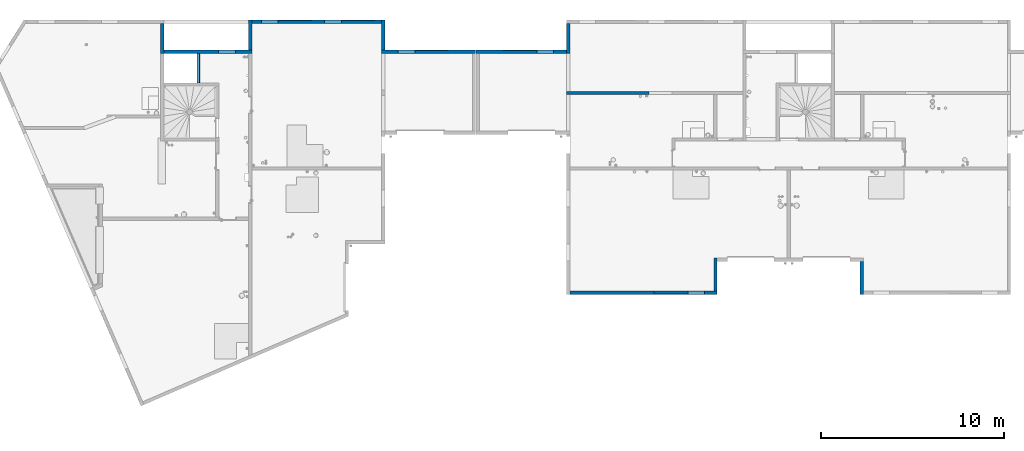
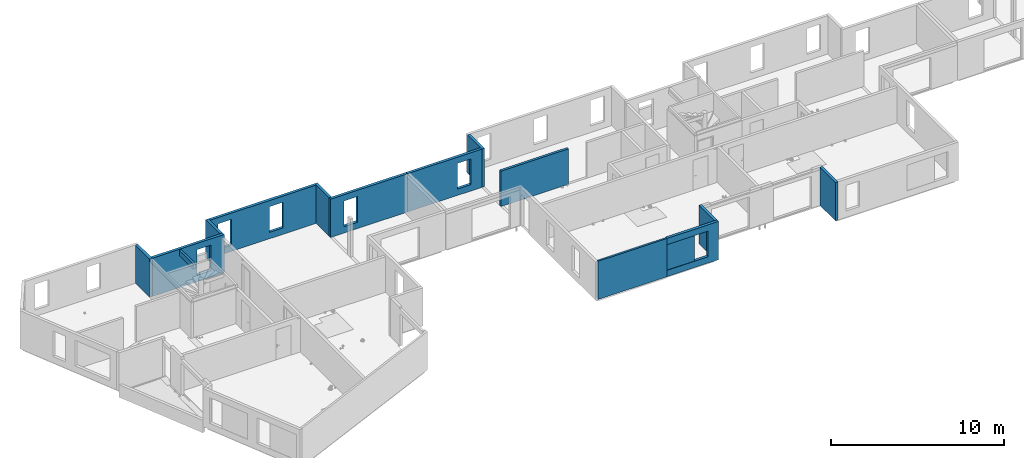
# One storey, part 6 of 30: 14 walls, 15 openings.
"""IFC2X3 building model written with IfcOpenShell, lengths in centimetres."""

import ifcopenshell
import ifcopenshell.guid

model = None  # the IFC model being written
_history = None  # IfcOwnerHistory: only IFC2X3 demands one
_inside = {}  # id of a spatial element -> (the spatial element, [elements in it])
_under = {}  # id of a project, library or spatial element -> (it, [spatial elements below it])
_declared = {}  # id of a project -> (the project, [libraries it declares])
_typed = {}  # id of a type object -> (the type object, [elements of that type])
_made_of = {}  # id of a material, layer set ... -> (it, [elements and type objects made of it])


def new_model(schema):
    """Start an empty IFC model of exactly this schema.

    Asked for "IFC4X3", IfcOpenShell would pick the latest addendum, in which some entities
    have other attributes; the version numbers below select the first issue.
    IFC2X3 requires an IfcOwnerHistory on every rooted entity: one is made here for all.
    """
    global model, _history
    if schema == "IFC4X3":
        model = ifcopenshell.file(schema_version=(4, 3, 0, 0))
    else:
        model = ifcopenshell.file(schema=schema)
    _inside.clear()
    _under.clear()
    _declared.clear()
    _typed.clear()
    _made_of.clear()
    _history = None
    if model.schema == "IFC2X3":
        org = make("IfcOrganization", Name="unknown")
        user = make(
            "IfcPersonAndOrganization",
            ThePerson=make("IfcPerson", FamilyName="unknown"),
            TheOrganization=org,
        )
        app = make(
            "IfcApplication",
            ApplicationDeveloper=org,
            Version="unknown",
            ApplicationFullName="unknown",
            ApplicationIdentifier="unknown",
        )
        _history = make(
            "IfcOwnerHistory",
            OwningUser=user,
            OwningApplication=app,
            ChangeAction="ADDED",
            CreationDate=0,
        )
    return model


def make(cls, **values):
    """One entity of the class cls with the attributes given. An attribute that is None is left unset."""
    return model.create_entity(
        cls, **{name: value for name, value in values.items() if value is not None}
    )


def entity(cls, *values):
    """Any entity or typed value of the class cls, its attributes in the order of the schema. None: left unset."""
    e = model.create_entity(cls)
    for i, value in enumerate(values):
        if value is not None:
            e[i] = value
    return e


def rooted(cls, **values):
    """An entity with a GlobalId (a new one), such as an element, a storey or a relation."""
    return make(cls, GlobalId=ifcopenshell.guid.new(), OwnerHistory=_history, **values)


def si_unit(unit_type, name, prefix=None):
    """IfcSIUnit, for example si_unit("LENGTHUNIT", "METRE", prefix="MILLI")."""
    return make("IfcSIUnit", UnitType=unit_type, Prefix=prefix, Name=name)


def converted_unit(unit_type, name, factor, base, dimensions=None, offset=None):
    """IfcConversionBasedUnit, such as the inch: factor (a typed value) times the base unit."""
    return make(
        "IfcConversionBasedUnit"
        if offset is None
        else "IfcConversionBasedUnitWithOffset",
        ConversionOffset=offset,
        Dimensions=None
        if dimensions is None
        else entity("IfcDimensionalExponents", *dimensions),
        UnitType=unit_type,
        Name=name,
        ConversionFactor=make(
            "IfcMeasureWithUnit", ValueComponent=factor, UnitComponent=base
        ),
    )


def derived_unit(unit_type, elements):
    """IfcDerivedUnit: a product of units, each with its exponent."""
    return make(
        "IfcDerivedUnit",
        Elements=[
            make("IfcDerivedUnitElement", Unit=unit, Exponent=power)
            for unit, power in elements
        ],
        UnitType=unit_type,
    )


def assignment(units):
    """IfcUnitAssignment: the units of a project."""
    return None if units is None else make("IfcUnitAssignment", Units=units)


def point(xyz):
    """IfcCartesianPoint."""
    return None if xyz is None else make("IfcCartesianPoint", Coordinates=xyz)


def direction(xyz):
    """IfcDirection."""
    return None if xyz is None else make("IfcDirection", DirectionRatios=xyz)


def frame(location, z_axis=None, x_axis=None):
    """IfcAxis2Placement3D, a coordinate frame: its origin and axes. An axis left out is left unset."""
    return make(
        "IfcAxis2Placement3D",
        Location=point(location),
        Axis=direction(z_axis),
        RefDirection=direction(x_axis),
    )


def frame_2d(location, x_axis=None):
    """IfcAxis2Placement2D, a coordinate frame in the plane: its origin and x axis."""
    return make(
        "IfcAxis2Placement2D", Location=point(location), RefDirection=direction(x_axis)
    )


def origin():
    """The frame at (0, 0, 0) with its axes left unset."""
    return frame((0.0, 0.0, 0.0))


def origin_2d_with_axis():
    """The frame at (0, 0) in the plane with the x axis (1, 0) written out."""
    return frame_2d((0.0, 0.0), x_axis=(1.0, 0.0))


def place(relative_to, where):
    """IfcLocalPlacement: puts the frame where relative to a parent placement (None: the world)."""
    return make(
        "IfcLocalPlacement", PlacementRelTo=relative_to, RelativePlacement=where
    )


def context(
    kind, dimensions, precision=None, world=None, true_north=None, identifier=None
):
    """IfcGeometricRepresentationContext, for example the 3D "Model" context."""
    return make(
        "IfcGeometricRepresentationContext",
        ContextIdentifier=identifier,
        ContextType=kind,
        CoordinateSpaceDimension=dimensions,
        Precision=precision,
        WorldCoordinateSystem=world,
        TrueNorth=true_north,
    )


def subcontext(parent, identifier, kind, view, scale=None):
    """IfcGeometricRepresentationSubContext, for example "Body" below "Model"."""
    return make(
        "IfcGeometricRepresentationSubContext",
        ContextIdentifier=identifier,
        ContextType=kind,
        ParentContext=parent,
        TargetScale=scale,
        TargetView=view,
    )


def project(units=None, contexts=None):
    """IfcProject with its units and contexts."""
    return rooted(
        "IfcProject",
        Name="project",
        RepresentationContexts=contexts,
        UnitsInContext=assignment(units),
    )


def spatial(cls, under=None, at=None, **own):
    """A site, building, storey or space (cls), placed at a placement, below another one or the project."""
    s = rooted(cls, ObjectPlacement=at, **own)
    if under is not None:
        _under.setdefault(under.id(), (under, []))[1].append(s)
    return s


def polyline(points):
    """IfcPolyline through the points."""
    return make("IfcPolyline", Points=[point(p) for p in points])


def profile(cls, at=None, kind="AREA", **sizes):
    """A parametric profile (cls). Its sizes go by their IFC names, for example OverallWidth=200.0."""
    return make(cls, ProfileType=kind, Position=at, **sizes)


def rectangle(**sizes):
    """IfcRectangleProfileDef."""
    return profile("IfcRectangleProfileDef", **sizes)


def extrude(swept, where, along, depth):
    """IfcExtrudedAreaSolid: the profile swept, set in the frame where, extruded along a direction by depth."""
    return make(
        "IfcExtrudedAreaSolid",
        SweptArea=swept,
        Position=where,
        ExtrudedDirection=direction(along),
        Depth=depth,
    )


def clip(a, b, op="DIFFERENCE"):
    """IfcBooleanClippingResult: the solid a cut by the half space b."""
    return make(
        "IfcBooleanClippingResult", Operator=op, FirstOperand=a, SecondOperand=b
    )


def bounded_halfspace(plane, agree, where, boundary):
    """IfcPolygonalBoundedHalfSpace: a half space limited to a polygon's prism."""
    return make(
        "IfcPolygonalBoundedHalfSpace",
        BaseSurface=make("IfcPlane", Position=plane),
        AgreementFlag=agree,
        Position=where,
        PolygonalBoundary=boundary,
    )


def shape(context_of_items, identifier, shape_type, items):
    """IfcShapeRepresentation: the items that make up one representation, for example the "Body"."""
    return make(
        "IfcShapeRepresentation",
        ContextOfItems=context_of_items,
        RepresentationIdentifier=identifier,
        RepresentationType=shape_type,
        Items=items,
    )


def material(Name=None, Category=None):
    """IfcMaterial."""
    return make("IfcMaterial", Name=Name, Category=Category)


def layer(
    of_material, thickness, ventilated=None, Name=None, Category=None, Priority=None
):
    """IfcMaterialLayer: one layer of a wall or slab, of a material (None: an air gap)."""
    return make(
        "IfcMaterialLayer",
        Material=of_material,
        LayerThickness=thickness,
        IsVentilated=ventilated,
        Name=Name,
        Category=Category,
        Priority=Priority,
    )


def layer_set(layers, Name=None):
    """IfcMaterialLayerSet."""
    return make("IfcMaterialLayerSet", MaterialLayers=layers, LayerSetName=Name)


def layer_usage(for_layer_set, set_direction, sense, offset, extent=None):
    """IfcMaterialLayerSetUsage: how a layer set lies in its element."""
    return make(
        "IfcMaterialLayerSetUsage",
        ForLayerSet=for_layer_set,
        LayerSetDirection=set_direction,
        DirectionSense=sense,
        OffsetFromReferenceLine=offset,
        ReferenceExtent=extent,
    )


def made_of(thing, what):
    """Note that an element or type object is made of a material, layer set ...; save() writes the relation."""
    if what is not None:
        _made_of.setdefault(what.id(), (what, []))[1].append(thing)
    return thing


def type_object(cls, material=None, **own):
    """A type object (cls), such as IfcWallType, which elements share."""
    return made_of(rooted(cls, **own), material)


def element(
    cls,
    number,
    at=None,
    inside=None,
    cuts=None,
    type_object=None,
    material=None,
    context=None,
    identifier="Body",
    shape_type=None,
    held_by="IfcProductDefinitionShape",
    body=None,
    shapes=None,
    **own,
):
    """One element of the class cls, such as IfcWall. Its Tag is "e" and its number.

    at: its placement. inside: the storey or other place that contains it. cuts: it is an
    opening in that element (IfcRelVoidsElement). A single representation is given by context,
    identifier, shape_type and body (its items); several are given by shapes. held_by: the class
    of the entity that holds the representations. save() writes the other relations.
    """
    e = rooted(cls, Tag="e%d" % number, ObjectPlacement=at, **own)
    if body is not None:
        shapes = [shape(context, identifier, shape_type, body)]
    if shapes is not None:
        e.Representation = make(held_by, Representations=shapes)
    if inside is not None:
        _inside.setdefault(inside.id(), (inside, []))[1].append(e)
    if cuts is not None:
        rooted(
            "IfcRelVoidsElement", RelatingBuildingElement=cuts, RelatedOpeningElement=e
        )
    if type_object is not None:
        _typed.setdefault(type_object.id(), (type_object, []))[1].append(e)
    return made_of(e, material)


def aggregate(whole, parts):
    """IfcRelAggregates: a whole, such as a stair, and the parts it consists of."""
    return rooted("IfcRelAggregates", RelatingObject=whole, RelatedObjects=parts)


def save(model, path):
    """Write the relations noted so far, then the file.

    IfcRelAggregates (storeys below a building ...), IfcRelContainedInSpatialStructure (elements
    in a storey), IfcRelDefinesByType, IfcRelAssociatesMaterial and IfcRelDeclares: one each for
    every whole, place, type object, material and project.
    """
    for whole, parts in _under.values():
        aggregate(whole, parts)
    for where, things in _inside.values():
        rooted(
            "IfcRelContainedInSpatialStructure",
            RelatedElements=things,
            RelatingStructure=where,
        )
    for kind, things in _typed.values():
        rooted("IfcRelDefinesByType", RelatedObjects=things, RelatingType=kind)
    for what, things in _made_of.values():
        rooted("IfcRelAssociatesMaterial", RelatedObjects=things, RelatingMaterial=what)
    for by, libraries in _declared.values():
        rooted("IfcRelDeclares", RelatingContext=by, RelatedDefinitions=libraries)
    model.write(path)


model = new_model("IFC2X3")

# Units and contexts
model_context = context("Model", 3, precision=0.001, world=origin(), true_north=direction((6.12303176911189e-17, 1.0)))
body_context = subcontext(model_context, "Body", "Model", "MODEL_VIEW")
ifc_project = project(units=[si_unit("LENGTHUNIT", "METRE", prefix="CENTI"), si_unit("AREAUNIT", "SQUARE_METRE"), si_unit("VOLUMEUNIT", "CUBIC_METRE"), converted_unit("PLANEANGLEUNIT", "DEGREE", entity("IfcRatioMeasure", 0.0174532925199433), si_unit("PLANEANGLEUNIT", "RADIAN"), dimensions=[0, 0, 0, 0, 0, 0, 0]), si_unit("MASSUNIT", "GRAM", prefix="KILO"), derived_unit("MASSDENSITYUNIT", [(si_unit("MASSUNIT", "GRAM", prefix="KILO"), 1), (si_unit("LENGTHUNIT", "METRE"), -3)]), si_unit("TIMEUNIT", "SECOND"), si_unit("FREQUENCYUNIT", "HERTZ"), si_unit("THERMODYNAMICTEMPERATUREUNIT", "DEGREE_CELSIUS"), derived_unit("THERMALTRANSMITTANCEUNIT", [(si_unit("MASSUNIT", "GRAM", prefix="KILO"), 1), (si_unit("THERMODYNAMICTEMPERATUREUNIT", "KELVIN"), -1), (si_unit("TIMEUNIT", "SECOND"), -3)]), derived_unit("VOLUMETRICFLOWRATEUNIT", [(si_unit("LENGTHUNIT", "METRE"), 3), (si_unit("TIMEUNIT", "SECOND"), -1)]), si_unit("ELECTRICCURRENTUNIT", "AMPERE"), si_unit("ELECTRICVOLTAGEUNIT", "VOLT"), si_unit("POWERUNIT", "WATT"), si_unit("FORCEUNIT", "NEWTON"), si_unit("ILLUMINANCEUNIT", "LUX"), si_unit("LUMINOUSFLUXUNIT", "LUMEN"), si_unit("LUMINOUSINTENSITYUNIT", "CANDELA"), derived_unit("USERDEFINED", [(si_unit("MASSUNIT", "GRAM", prefix="KILO"), -1), (si_unit("LENGTHUNIT", "METRE"), -2), (si_unit("TIMEUNIT", "SECOND"), 3), (si_unit("LUMINOUSFLUXUNIT", "LUMEN"), 1)]), derived_unit("LINEARVELOCITYUNIT", [(si_unit("LENGTHUNIT", "METRE"), 1), (si_unit("TIMEUNIT", "SECOND"), -1)]), si_unit("PRESSUREUNIT", "PASCAL"), derived_unit("USERDEFINED", [(si_unit("LENGTHUNIT", "METRE"), -2), (si_unit("MASSUNIT", "GRAM", prefix="KILO"), 1), (si_unit("TIMEUNIT", "SECOND"), -2)])], contexts=[model_context])

# Site, building, storey
site_placement = place(None, origin())
site = spatial("IfcSite", under=ifc_project, at=site_placement, Name="Default", CompositionType="ELEMENT")
building_placement = place(site_placement, origin())
building = spatial("IfcBuilding", under=site, at=building_placement, Name="CAGE 03", CompositionType="ELEMENT")
storey_placement = place(building_placement, frame((0.0, 0.0, 610.0)))
storey = spatial("IfcBuildingStorey", under=building, at=storey_placement, Name="R+2", CompositionType="ELEMENT", Elevation=610.0)

# Wall
ifc_material_1 = material(Name="Béton, C25/30")
ifc_layer_1 = layer(ifc_material_1, 18.0)
ifc_layer_set_1 = layer_set([ifc_layer_1], Name="Mur de base:Voile BA 18")
ifc_layer_usage_1 = layer_usage(ifc_layer_set_1, "AXIS2", "NEGATIVE", 9.0)
wall_type_1 = type_object("IfcWallType", Name="Mur de base:Voile BA 18", PredefinedType="STANDARD", material=ifc_layer_set_1)
wall_1_placement = place(storey_placement, frame((3663.36582014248, 5275.66066607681, 0.0), z_axis=(0.0, 0.0, 1.0), x_axis=(0.0, -1.0, 0.0)))
element("IfcWallStandardCase", 1, at=wall_1_placement, inside=storey, type_object=wall_type_1, material=ifc_layer_usage_1, Name="Mur de base:Voile BA 18", ObjectType="Mur de base:Voile BA 18", context=body_context, shape_type="SweptSolid", body=[
    extrude(rectangle(XDim=165.0, YDim=18.0000000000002, at=frame_2d((82.4999999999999, 7.54951656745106e-14), x_axis=(-1.0, 0.0))), origin(), (0.0, 0.0, 1.0), 270.0),
])

# Wall, openings
ifc_layer_usage_2 = layer_usage(ifc_layer_set_1, "AXIS2", "NEGATIVE", 9.0)
wall_2_placement = place(storey_placement, frame((3672.36582014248, 5119.66066607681, 0.0)))
wall_2 = element("IfcWallStandardCase", 2, at=wall_2_placement, inside=storey, type_object=wall_type_1, material=ifc_layer_usage_2, Name="Mur de base:Voile BA 18", ObjectType="Mur de base:Voile BA 18", context=body_context, shape_type="SweptSolid", body=[
    extrude(rectangle(XDim=479.999999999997, YDim=17.9999999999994, at=frame_2d((239.999999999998, 1.87405646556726e-13), x_axis=(-1.0, 0.0))), origin(), (0.0, 0.0, 1.0), 270.0),
])
opening_1_placement = place(wall_2_placement, origin())
element("IfcOpeningElement", 3, at=opening_1_placement, cuts=wall_2, Name="Mur de base:Voile BA 18", ObjectType="Opening", context=body_context, shape_type="SweptSolid", body=[
    extrude(rectangle(XDim=227.0, YDim=17.9999999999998, at=frame_2d((2.16715534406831e-13, 4.9737991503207e-14), x_axis=(0.0, 1.0))), frame((189.0, -169.0, 113.5), z_axis=(0.0, 1.0, 0.0), x_axis=(1.0, 0.0, 0.0)), (0.0, 0.0, 1.0), 160.0),
])
opening_2_placement = place(wall_2_placement, frame((-3672.36582014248, -5119.66066607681, 0.0)))
element("IfcOpeningElement", 4, at=opening_2_placement, cuts=wall_2, Name="Mur de base:Voile BA 18", ObjectType="Opening", context=body_context, shape_type="SweptSolid", body=[
    extrude(rectangle(XDim=181.0, YDim=95.0000000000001, at=frame_2d((0.0, -4.33431068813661e-13), x_axis=(1.0, 0.0))), frame((4016.86582014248, 4958.26066607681, 135.5), z_axis=(0.0, 1.0, 0.0), x_axis=(0.0, 0.0, 1.0)), (0.0, 0.0, 1.0), 304.8),
])

# Walls
ifc_layer_usage_3 = layer_usage(ifc_layer_set_1, "AXIS2", "POSITIVE", -9.0)
wall_3_placement = place(storey_placement, frame((4143.36582014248, 5293.66066607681, 0.0), z_axis=(0.0, 0.0, 1.0), x_axis=(0.0, -1.0, 0.0)))
element("IfcWallStandardCase", 5, at=wall_3_placement, inside=storey, type_object=wall_type_1, material=ifc_layer_usage_3, Name="Mur de base:Voile BA 18", ObjectType="Mur de base:Voile BA 18", context=body_context, shape_type="SweptSolid", body=[
    extrude(rectangle(XDim=165.000000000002, YDim=17.9999999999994, at=frame_2d((82.5000000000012, -9.76996261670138e-15), x_axis=(-1.0, 0.0))), origin(), (0.0, 0.0, 1.0), 270.0),
])
ifc_layer_usage_4 = layer_usage(ifc_layer_set_1, "AXIS2", "POSITIVE", -9.0)
wall_4_placement = place(storey_placement, frame((6682.36582014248, 3814.6606660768, 0.0), z_axis=(0.0, 0.0, 1.0), x_axis=(0.0, 1.0, 0.0)))
element("IfcWallStandardCase", 6, at=wall_4_placement, inside=storey, type_object=wall_type_1, material=ifc_layer_usage_4, Name="Mur de base:Voile BA 18", ObjectType="Mur de base:Voile BA 18", context=body_context, shape_type="SweptSolid", body=[
    extrude(rectangle(XDim=179.999999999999, YDim=17.9999999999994, at=frame_2d((89.9999999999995, -1.4299672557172e-13), x_axis=(-1.0, 0.0))), origin(), (0.0, 0.0, 1.0), 270.0),
])
ifc_layer_usage_5 = layer_usage(ifc_layer_set_1, "AXIS2", "POSITIVE", -9.0)
wall_5_placement = place(storey_placement, frame((7480.36582014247, 3976.6606660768, 0.0), z_axis=(0.0, 0.0, 1.0), x_axis=(0.0, -1.0, 0.0)))
element("IfcWallStandardCase", 7, at=wall_5_placement, inside=storey, type_object=wall_type_1, material=ifc_layer_usage_5, Name="Mur de base:Voile BA 18", ObjectType="Mur de base:Voile BA 18", context=body_context, shape_type="SweptSolid", body=[
    extrude(rectangle(XDim=179.999999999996, YDim=17.9999999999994, at=frame_2d((89.9999999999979, -7.19424519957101e-14), x_axis=(-1.0, 0.0))), origin(), (0.0, 0.0, 1.0), 270.0),
])
ifc_layer_usage_6 = layer_usage(ifc_layer_set_1, "AXIS2", "POSITIVE", -9.0)
wall_6_placement = place(storey_placement, frame((5879.36582014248, 5275.6606660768, 0.0), z_axis=(0.0, 0.0, 1.0), x_axis=(0.0, -1.0, 0.0)))
element("IfcWallStandardCase", 8, at=wall_6_placement, inside=storey, type_object=wall_type_1, material=ifc_layer_usage_6, Name="Mur de base:Voile BA 18", ObjectType="Mur de base:Voile BA 18", context=body_context, shape_type="SweptSolid", body=[
    extrude(rectangle(XDim=164.999999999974, YDim=17.9999999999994, at=frame_2d((82.4999999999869, -1.08357767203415e-13), x_axis=(-1.0, 0.0))), origin(), (0.0, 0.0, 1.0), 270.0),
])

# Wall, openings
ifc_layer_usage_7 = layer_usage(ifc_layer_set_1, "AXIS2", "POSITIVE", -9.0)
wall_7_placement = place(storey_placement, frame((5870.36582014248, 5119.66066607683, 0.0), z_axis=(0.0, 0.0, 1.0), x_axis=(-1.0, 0.0, 0.0)))
wall_7 = element("IfcWallStandardCase", 9, at=wall_7_placement, inside=storey, type_object=wall_type_1, material=ifc_layer_usage_7, Name="Mur de base:Voile BA 18", ObjectType="Mur de base:Voile BA 18", context=body_context, shape_type="SweptSolid", body=[
    extrude(rectangle(XDim=494.999999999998, YDim=17.9999999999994, at=frame_2d((247.499999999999, -7.01660951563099e-14), x_axis=(-1.0, 0.0))), origin(), (0.0, 0.0, 1.0), 270.0),
])
opening_3_placement = place(wall_7_placement, origin())
element("IfcOpeningElement", 10, at=opening_3_placement, cuts=wall_7, Name="Mur de base:Voile BA 18", ObjectType="Recess", context=body_context, shape_type="SweptSolid", body=[
    extrude(rectangle(XDim=181.0, YDim=184.0, at=frame_2d((0.0, 5.6843418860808e-14), x_axis=(0.0, 1.0))), frame((255.0, -9.0, 135.500000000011), z_axis=(0.0, 1.0, 0.0), x_axis=(1.0, 0.0, 0.0)), (0.0, 0.0, 1.0), 1.99999999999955),
])
opening_4_placement = place(wall_7_placement, frame((5870.36582014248, 5119.66066607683, 0.0), z_axis=(0.0, 0.0, 1.0), x_axis=(-1.0, 0.0, 0.0)))
element("IfcOpeningElement", 11, at=opening_4_placement, cuts=wall_7, Name="Mur de base:Voile BA 18", ObjectType="Opening", context=body_context, shape_type="SweptSolid", body=[
    extrude(rectangle(XDim=181.0, YDim=91.0000000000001, at=frame_2d((0.0, 0.0), x_axis=(0.0, 1.0))), frame((5752.86582014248, 5263.06066607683, 135.5), z_axis=(0.0, -1.0, 0.0), x_axis=(1.0, 0.0, 0.0)), (0.0, 0.0, 1.0), 304.8),
])

# Wall
ifc_layer_usage_8 = layer_usage(ifc_layer_set_1, "AXIS2", "POSITIVE", -9.0)
wall_8_placement = place(storey_placement, frame((4869.36582014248, 5128.66066607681, 0.0), z_axis=(0.0, 0.0, 1.0), x_axis=(0.0, 1.0, 0.0)))
element("IfcWallStandardCase", 12, at=wall_8_placement, inside=storey, type_object=wall_type_1, material=ifc_layer_usage_8, Name="Mur de base:Voile BA 18", ObjectType="Mur de base:Voile BA 18", context=body_context, shape_type="SweptSolid", body=[
    extrude(rectangle(XDim=165.0, YDim=17.9999999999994, at=frame_2d((82.4999999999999, -1.07469588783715e-13), x_axis=(-1.0, 0.0))), origin(), (0.0, 0.0, 1.0), 270.0),
])

# Wall, openings
ifc_layer_usage_9 = layer_usage(ifc_layer_set_1, "AXIS2", "POSITIVE", -9.0)
wall_9_placement = place(storey_placement, frame((4860.36582014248, 5284.66066607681, 0.0), z_axis=(0.0, 0.0, 1.0), x_axis=(-1.0, 0.0, 0.0)))
wall_9 = element("IfcWallStandardCase", 13, at=wall_9_placement, inside=storey, type_object=wall_type_1, material=ifc_layer_usage_9, Name="Mur de base:Voile BA 18", ObjectType="Mur de base:Voile BA 18", context=body_context, shape_type="SweptSolid", body=[
    extrude(rectangle(XDim=708.000000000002, YDim=17.9999999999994, at=frame_2d((354.000000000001, -2.43360886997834e-13), x_axis=(-1.0, 0.0))), origin(), (0.0, 0.0, 1.0), 270.0),
])
opening_5_placement = place(wall_9_placement, origin())
element("IfcOpeningElement", 14, at=opening_5_placement, cuts=wall_9, Name="Mur de base:Voile BA 18", ObjectType="Recess", context=body_context, shape_type="SweptSolid", body=[
    extrude(rectangle(XDim=181.0, YDim=184.0, at=frame_2d((0.0, -5.6843418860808e-14), x_axis=(0.0, 1.0))), frame((473.0, -9.0, 135.5), z_axis=(0.0, 1.0, 0.0), x_axis=(1.0, 0.0, 0.0)), (0.0, 0.0, 1.0), 1.99999999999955),
])
opening_6_placement = place(wall_9_placement, origin())
element("IfcOpeningElement", 15, at=opening_6_placement, cuts=wall_9, Name="Mur de base:Voile BA 18", ObjectType="Recess", context=body_context, shape_type="SweptSolid", body=[
    extrude(rectangle(XDim=181.0, YDim=184.0, at=frame_2d((0.0, 5.6843418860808e-14), x_axis=(0.0, 1.0))), frame((128.0, -9.0, 135.499999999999), z_axis=(0.0, 1.0, 0.0), x_axis=(1.0, 0.0, 0.0)), (0.0, 0.0, 1.0), 1.99999999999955),
])
opening_7_placement = place(wall_9_placement, frame((4860.36582014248, 5284.66066607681, 0.0), z_axis=(0.0, 0.0, 1.0), x_axis=(-1.0, 0.0, 0.0)))
element("IfcOpeningElement", 16, at=opening_7_placement, cuts=wall_9, Name="Mur de base:Voile BA 18", ObjectType="Opening", context=body_context, shape_type="SweptSolid", body=[
    extrude(rectangle(XDim=181.0, YDim=91.0000000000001, at=frame_2d((0.0, 0.0), x_axis=(0.0, 1.0))), frame((4249.86582014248, 5428.06066607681, 135.5), z_axis=(0.0, -1.0, 0.0), x_axis=(1.0, 0.0, 0.0)), (0.0, 0.0, 1.0), 304.8),
])
opening_8_placement = place(wall_9_placement, frame((4860.36582014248, 5284.66066607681, 0.0), z_axis=(0.0, 0.0, 1.0), x_axis=(-1.0, 0.0, 0.0)))
element("IfcOpeningElement", 17, at=opening_8_placement, cuts=wall_9, Name="Mur de base:Voile BA 18", ObjectType="Opening", context=body_context, shape_type="SweptSolid", body=[
    extrude(rectangle(XDim=181.0, YDim=91.0000000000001, at=frame_2d((0.0, 0.0), x_axis=(0.0, 1.0))), frame((4594.86582014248, 5428.06066607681, 135.5), z_axis=(0.0, -1.0, 0.0), x_axis=(1.0, 0.0, 0.0)), (0.0, 0.0, 1.0), 304.8),
])

# Wall, opening
ifc_layer_usage_10 = layer_usage(ifc_layer_set_1, "AXIS2", "POSITIVE", -9.0)
wall_10_placement = place(storey_placement, frame((3861.36582014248, 5110.66066607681, 227.0), z_axis=(0.0, 0.0, 1.0), x_axis=(0.0, -1.0, 0.0)))
wall_10 = element("IfcWallStandardCase", 18, at=wall_10_placement, inside=storey, type_object=wall_type_1, material=ifc_layer_usage_10, Name="Mur de base:Voile BA 18", ObjectType="Mur de base:Voile BA 18", context=body_context, shape_type="Clipping", body=[
    clip(clip(extrude(rectangle(XDim=159.999999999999, YDim=18.0000000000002, at=frame_2d((79.9999999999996, -8.08242361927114e-14), x_axis=(-1.0, 0.0))), origin(), (0.0, 0.0, 1.0), 36.0), bounded_halfspace(frame((0.0, 6.0, 23.0), z_axis=(0.0, 0.0, -1.0), x_axis=(1.0, 0.0, 0.0)), True, frame((0.0, 6.0, 23.0), z_axis=(0.0, 0.0, -1.0), x_axis=(1.0, 0.0, 0.0)), polyline([(0.0, 0.0), (0.0, -3.0), (160.0, -3.0), (160.0, 0.0), (0.0, 0.0)]))), bounded_halfspace(frame((160.0, 6.0, 23.0), z_axis=(0.0, -1.0, 0.0), x_axis=(0.0, 0.0, 1.0)), True, frame((160.0, 6.0, 23.0), z_axis=(0.0, -1.0, 0.0), x_axis=(0.0, 0.0, 1.0)), polyline([(0.0, 0.0), (13.0, 0.0), (13.0, 160.0), (0.0, 160.0), (0.0, 0.0)]))),
])
opening_9_placement = place(wall_10_placement, frame((5110.66066607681, -3861.36582014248, -227.0), z_axis=(0.0, 0.0, 1.0), x_axis=(0.0, 1.0, 0.0)))
element("IfcOpeningElement", 19, at=opening_9_placement, cuts=wall_10, Name="Mur de base:Voile BA 18", ObjectType="Opening", context=body_context, shape_type="SweptSolid", body=[
    extrude(rectangle(XDim=227.0, YDim=160.0, at=frame_2d((0.0, 4.9737991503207e-14), x_axis=(0.0, 1.0))), frame((3717.96582014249, 5030.66066607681, 113.5), z_axis=(1.0, 0.0, 0.0), x_axis=(0.0, 1.0, 0.0)), (0.0, 0.0, 1.0), 304.8),
])

# Wall, openings
ifc_layer_usage_11 = layer_usage(ifc_layer_set_1, "AXIS2", "POSITIVE", -9.0)
wall_11_placement = place(storey_placement, frame((5373.36582014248, 5119.66066607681, 0.0), z_axis=(0.0, 0.0, 1.0), x_axis=(-1.0, 0.0, 0.0)))
wall_11 = element("IfcWallStandardCase", 20, at=wall_11_placement, inside=storey, type_object=wall_type_1, material=ifc_layer_usage_11, Name="Mur de base:Voile BA 18", ObjectType="Mur de base:Voile BA 18", context=body_context, shape_type="SweptSolid", body=[
    extrude(rectangle(XDim=512.999999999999, YDim=17.9999999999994, at=frame_2d((256.5, 0.0), x_axis=(-1.0, 0.0))), origin(), (0.0, 0.0, 1.0), 270.0),
])
opening_10_placement = place(wall_11_placement, origin())
element("IfcOpeningElement", 21, at=opening_10_placement, cuts=wall_11, Name="Mur de base:Voile BA 18", ObjectType="Recess", context=body_context, shape_type="SweptSolid", body=[
    extrude(rectangle(XDim=181.0, YDim=184.0, at=frame_2d((0.0, 5.6843418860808e-14), x_axis=(0.0, 1.0))), frame((240.0, -9.0, 135.500000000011), z_axis=(0.0, 1.0, 0.0), x_axis=(1.0, 0.0, 0.0)), (0.0, 0.0, 1.0), 1.99999999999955),
])
opening_11_placement = place(wall_11_placement, frame((5373.36582014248, 5119.66066607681, 0.0), z_axis=(0.0, 0.0, 1.0), x_axis=(-1.0, 0.0, 0.0)))
element("IfcOpeningElement", 22, at=opening_11_placement, cuts=wall_11, Name="Mur de base:Voile BA 18", ObjectType="Opening", context=body_context, shape_type="SweptSolid", body=[
    extrude(rectangle(XDim=181.0, YDim=91.0000000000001, at=frame_2d((0.0, 0.0), x_axis=(0.0, 1.0))), frame((4995.86582014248, 5263.06066607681, 135.5), z_axis=(0.0, -1.0, 0.0), x_axis=(1.0, 0.0, 0.0)), (0.0, 0.0, 1.0), 304.8),
])

ifc_layer_usage_12 = layer_usage(ifc_layer_set_1, "AXIS2", "POSITIVE", -9.0)
wall_12_placement = place(storey_placement, frame((6347.36582014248, 3805.6606660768, 0.0)))
wall_12 = element("IfcWallStandardCase", 23, at=wall_12_placement, inside=storey, type_object=wall_type_1, material=ifc_layer_usage_12, Name="Mur de base:Voile BA 18", ObjectType="Mur de base:Voile BA 18", context=body_context, shape_type="SweptSolid", body=[
    extrude(rectangle(XDim=344.0, YDim=18.0000000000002, at=frame_2d((172.0, -1.04805053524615e-13), x_axis=(-1.0, 0.0))), origin(), (0.0, 0.0, 1.0), 270.0),
])
opening_12_placement = place(wall_12_placement, origin())
element("IfcOpeningElement", 24, at=opening_12_placement, cuts=wall_12, Name="Mur de base:Voile BA 18", ObjectType="Recess", context=body_context, shape_type="SweptSolid", body=[
    extrude(rectangle(XDim=181.0, YDim=184.0, at=origin_2d_with_axis()), frame((92.0, -9.0, 135.5), z_axis=(0.0, 1.0, 0.0), x_axis=(0.0, 0.0, -1.0)), (0.0, 0.0, 1.0), 1.99999999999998),
])
opening_13_placement = place(wall_12_placement, origin())
element("IfcOpeningElement", 25, at=opening_13_placement, cuts=wall_12, Name="Mur de base:Voile BA 18", ObjectType="Recess", context=body_context, shape_type="SweptSolid", body=[
    extrude(rectangle(XDim=181.0, YDim=184.0, at=origin_2d_with_axis()), frame((1693.0, -9.0, 135.5), z_axis=(0.0, 1.0, 0.0), x_axis=(0.0, 0.0, -1.0)), (0.0, 0.0, 1.0), 1.99999999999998),
])
opening_14_placement = place(wall_12_placement, frame((-6347.36582014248, -3805.6606660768, 0.0)))
element("IfcOpeningElement", 26, at=opening_14_placement, cuts=wall_12, Name="Mur de base:Voile BA 18", ObjectType="Opening", context=body_context, shape_type="SweptSolid", body=[
    extrude(rectangle(XDim=181.0, YDim=91.0000000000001, at=frame_2d((0.0, 0.0), x_axis=(0.0, 1.0))), frame((6576.86582014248, 3644.2606660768, 135.5), z_axis=(0.0, 1.0, 0.0), x_axis=(-1.0, 0.0, 0.0)), (0.0, 0.0, 1.0), 304.8),
])

# Wall, opening
ifc_material_2 = material(Name="Béton, panneaux préfa 30/37")
ifc_layer_2 = layer(ifc_material_2, 5.5)
ifc_layer_3 = layer(ifc_material_1, 7.0)
ifc_layer_4 = layer(ifc_material_2, 5.5)
ifc_layer_set_2 = layer_set([ifc_layer_2, ifc_layer_3, ifc_layer_4], Name="Mur de base:premur 18")
ifc_layer_usage_13 = layer_usage(ifc_layer_set_2, "AXIS2", "POSITIVE", -9.0)
wall_type_2 = type_object("IfcWallType", Name="Mur de base:premur 18", PredefinedType="NOTDEFINED")
wall_13_placement = place(storey_placement, frame((5888.36582014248, 3805.66066607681, 0.0)))
wall_13 = element("IfcWallStandardCase", 27, at=wall_13_placement, inside=storey, type_object=wall_type_2, material=ifc_layer_usage_13, Name="Mur de base:premur 18", ObjectType="Mur de base:premur 18", context=body_context, shape_type="Clipping", body=[
    clip(clip(extrude(rectangle(XDim=459.000000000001, YDim=18.0000000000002, at=frame_2d((229.500000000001, 7.72715225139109e-14), x_axis=(-1.0, 0.0))), origin(), (0.0, 0.0, 1.0), 270.0), bounded_halfspace(frame((0.0, 3.50000000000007, 250.0), z_axis=(0.0, 0.0, -1.0), x_axis=(-1.0, 0.0, 0.0)), True, frame((0.0, 3.50000000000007, 250.0), z_axis=(0.0, 0.0, -1.0), x_axis=(-1.0, 0.0, 0.0)), polyline([(0.0, 0.0), (0.0, 5.50000000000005), (-459.0, 5.49999999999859), (-459.0, 0.0), (0.0, 0.0)]))), bounded_halfspace(frame((459.0, 3.50000000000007, 250.0), z_axis=(0.0, -1.0, 0.0), x_axis=(0.0, 0.0, 1.0)), True, frame((459.0, 3.50000000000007, 250.0), z_axis=(0.0, -1.0, 0.0), x_axis=(0.0, 0.0, 1.0)), polyline([(0.0, 0.0), (20.0, 0.0), (20.0, 459.0), (0.0, 459.0), (0.0, 0.0)]))),
])
opening_15_placement = place(wall_13_placement, origin())
element("IfcOpeningElement", 28, at=opening_15_placement, cuts=wall_13, Name="Mur de base:premur 18", ObjectType="Recess", context=body_context, shape_type="SweptSolid", body=[
    extrude(rectangle(XDim=181.0, YDim=184.0, at=origin_2d_with_axis()), frame((551.0, -9.0, 135.5), z_axis=(0.0, 1.0, 0.0), x_axis=(0.0, 0.0, -1.0)), (0.0, 0.0, 1.0), 1.99999999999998),
])

# Wall
ifc_layer_5 = layer(ifc_material_1, 16.0)
ifc_layer_set_3 = layer_set([ifc_layer_5], Name="Mur de base:Voile BA 16")
ifc_layer_usage_14 = layer_usage(ifc_layer_set_3, "AXIS2", "NEGATIVE", 8.0)
wall_type_3 = type_object("IfcWallType", Name="Mur de base:Voile BA 16", PredefinedType="STANDARD", material=ifc_layer_set_3)
wall_14_placement = place(storey_placement, frame((5870.36582014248, 4895.6606660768, 0.0)))
element("IfcWallStandardCase", 29, at=wall_14_placement, inside=storey, type_object=wall_type_3, material=ifc_layer_usage_14, Name="Mur de base:Voile BA 16", ObjectType="Mur de base:Voile BA 16", context=body_context, shape_type="SweptSolid", body=[
    extrude(rectangle(XDim=450.0, YDim=15.9999999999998, at=frame_2d((225.0, 2.1538326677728e-13), x_axis=(-1.0, 0.0))), origin(), (0.0, 0.0, 1.0), 250.0),
])

save(model, "model.ifc")
